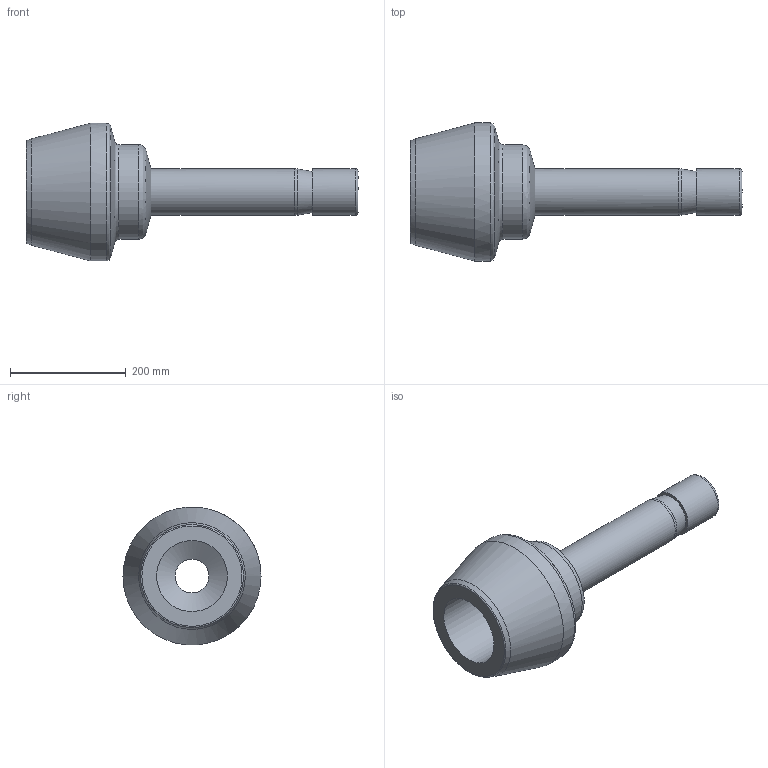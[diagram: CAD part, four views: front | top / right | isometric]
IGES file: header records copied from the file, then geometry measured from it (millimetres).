
Global section: file name: SRPC-4-2; native system: Autodesk Inventor 2016; preprocessor: unknown; author: DESIGNPC2; date: 20151219.164554; units: millimetre
Bounding box: 574.04 x 238.76 x 238.46 mm (x, y, z)
Volume: 6108454.3 mm3; surface area: 403054 mm2
Topology: 1 solids, 1 shells, 21 faces, 70 edges, 52 vertices
Faces by surface type: bspline 21
